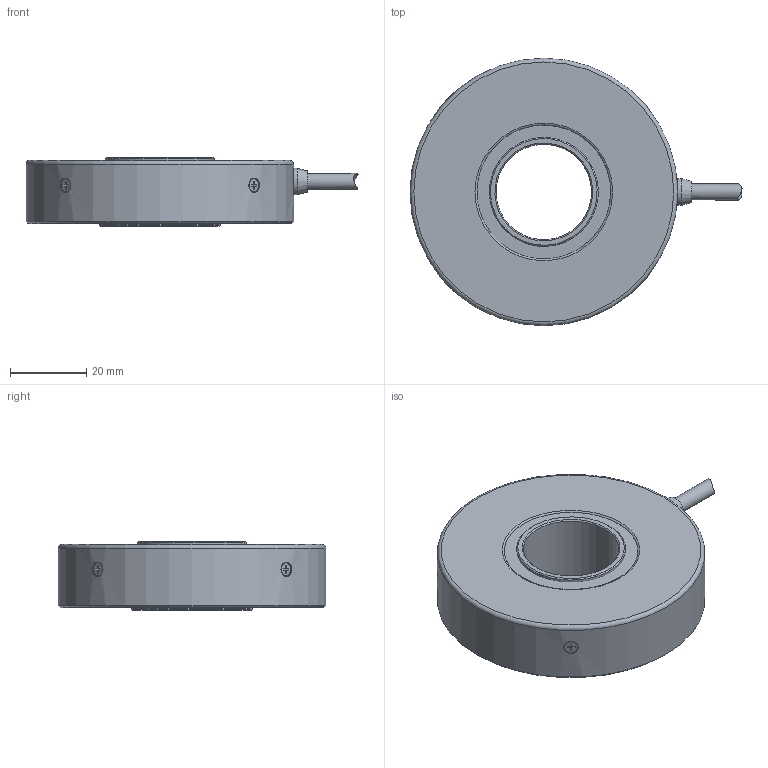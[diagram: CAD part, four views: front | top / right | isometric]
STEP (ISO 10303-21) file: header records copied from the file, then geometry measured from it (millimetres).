
FILE_DESCRIPTION(('STEP AP214'),'1');
FILE_NAME('_E.stp','2022-04-19T07:41:52',(' '),(' '),'Spatial InterOp 3D',' ',' ');
FILE_SCHEMA(('AUTOMOTIVE_DESIGN { 1 0 10303 214 1 1 1 1 }'));
Length unit declared in the file: millimetre
Products named in the file (7): L16L01A MEH-59-12960P◇#E; 012812 シール 28×35(6805RS); 018238 サラ0番3種 M2x2.5 鉄 三価黒; 029859 16芯ケーブル(4.2)MA-20P; φ4.2; MA20 ブッシュ
Assembly tree (9 placements, depth 3):
  L16L01A MEH-59-12960P◇#E
    L16L01A MEH-59-12960P◇#E
    012812 シール 28×35(6805RS)
    018238 サラ0番3種 M2x2.5 鉄 三価黒  x4
    029859 16芯ケーブル(4.2)MA-20P
      φ4.2
      MA20 ブッシュ
Bounding box: 86.84 x 70 x 18 mm (x, y, z)
Volume: 55790 mm3; surface area: 13775.1 mm2
Topology: 8 solids, 12 shells, 163 faces, 362 edges, 236 vertices
Faces by surface type: plane 94, cylinder 44, cone 23, torus 2
Full cylindrical faces by diameter (mm): 1.6 x2, 2 x8, 3.3 x6, 3.5 x4, 3.8 x4, 4.2 x3, 7 x1, 25 x1, 28 x1, 28.5 x1, 31.6 x1, 35 x2, 37.5 x1, 70 x1
Entity records: 4283 total; most frequent: CARTESIAN_POINT 1006, DIRECTION 435, ORIENTED_EDGE 310, AXIS2_PLACEMENT_3D 182, EDGE_LOOP 169, EDGE_CURVE 155, FACE_OUTER_BOUND 135, VERTEX_POINT 133
